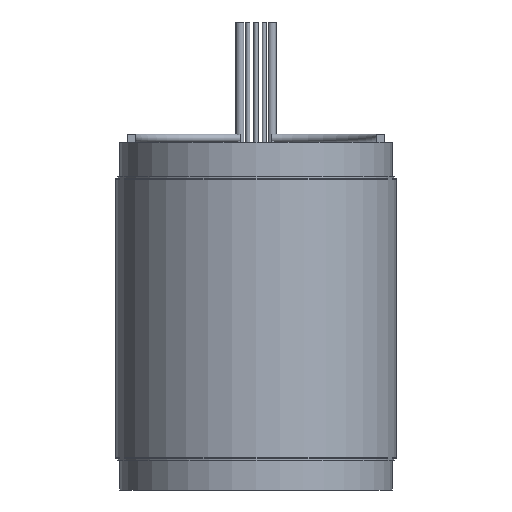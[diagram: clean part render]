
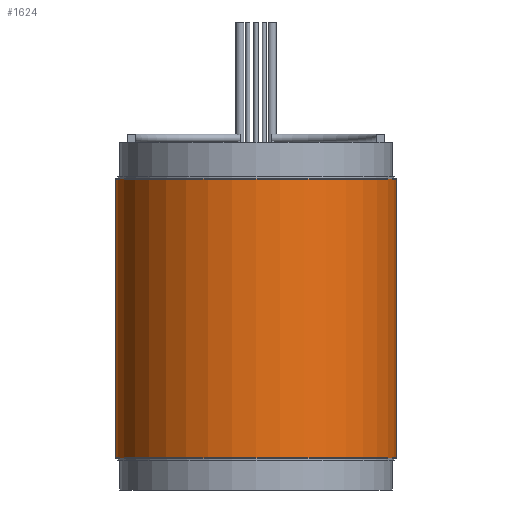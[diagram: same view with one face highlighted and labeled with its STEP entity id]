
A CAD part, front view. The second image highlights one B-rep face of the part: STEP entity #1624.
In plain terms, the highlighted cylindrical face has radius 44.45 mm (diameter 88.9 mm), a full revolution.
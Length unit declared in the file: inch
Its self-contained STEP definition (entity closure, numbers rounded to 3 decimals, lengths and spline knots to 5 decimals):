
#60 = EDGE_CURVE ( 'NONE', #1321, #1321, #563, .T. ) ;
#128 = DIRECTION ( 'NONE',  ( 1., 0., 0. ) ) ;
#209 = VERTEX_POINT ( 'NONE', #742 ) ;
#248 = FACE_OUTER_BOUND ( 'NONE', #438, .T. ) ;
#438 = EDGE_LOOP ( 'NONE', ( #500 ) ) ;
#495 = CARTESIAN_POINT ( 'NONE',  ( 0., 0., 1.736 ) ) ;
#500 = ORIENTED_EDGE ( 'NONE', *, *, #1339, .F. ) ;
#563 = CIRCLE ( 'NONE', #1309, 1.75 ) ;
#627 = CYLINDRICAL_SURFACE ( 'NONE', #1604, 1.75 ) ;
#674 = DIRECTION ( 'NONE',  ( 1., 0., 0. ) ) ;
#703 = CIRCLE ( 'NONE', #775, 1.75 ) ;
#742 = CARTESIAN_POINT ( 'NONE',  ( 1.75, 0., 1.736 ) ) ;
#769 = DIRECTION ( 'NONE',  ( 1., 0., 0. ) ) ;
#775 = AXIS2_PLACEMENT_3D ( 'NONE', #495, #1584, #128 ) ;
#789 = FACE_OUTER_BOUND ( 'NONE', #887, .T. ) ;
#876 = CARTESIAN_POINT ( 'NONE',  ( 1.75, 0., -1.736 ) ) ;
#887 = EDGE_LOOP ( 'NONE', ( #1477 ) ) ;
#1161 = DIRECTION ( 'NONE',  ( 0., 0., 1. ) ) ;
#1198 = CARTESIAN_POINT ( 'NONE',  ( 0., 0., -1.736 ) ) ;
#1309 = AXIS2_PLACEMENT_3D ( 'NONE', #1198, #1472, #674 ) ;
#1321 = VERTEX_POINT ( 'NONE', #876 ) ;
#1339 = EDGE_CURVE ( 'NONE', #209, #209, #703, .T. ) ;
#1472 = DIRECTION ( 'NONE',  ( 0., 0., 1. ) ) ;
#1477 = ORIENTED_EDGE ( 'NONE', *, *, #60, .T. ) ;
#1584 = DIRECTION ( 'NONE',  ( 0., 0., 1. ) ) ;
#1604 = AXIS2_PLACEMENT_3D ( 'NONE', #1672, #1161, #769 ) ;
#1624 = ADVANCED_FACE ( 'NONE', ( #248, #789 ), #627, .T. ) ;
#1672 = CARTESIAN_POINT ( 'NONE',  ( 0., 0., -1.77 ) ) ;
